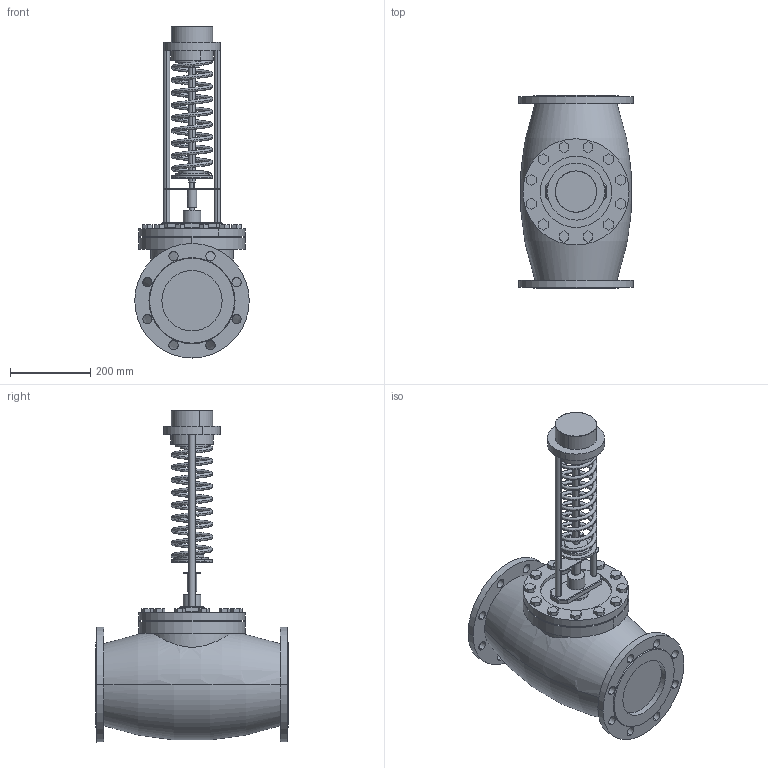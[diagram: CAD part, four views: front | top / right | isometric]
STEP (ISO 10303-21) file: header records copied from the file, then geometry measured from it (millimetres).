
FILE_DESCRIPTION (( 'STEP AP214' ), '1' );
FILE_NAME ('RDT-S, RDT-B DN-150.STEP', '2025-12-12T08:29:07', ( '' ), ( '' ), 'SwSTEP 2.0', 'SolidWorks 2023', '' );
FILE_SCHEMA (( 'AUTOMOTIVE_DESIGN' ));
Length unit declared in the file: millimetre
Products named in the file (5): RDT-S, RDT-B DN-150.stp; ______ ___ 125-150 __ _____1.stp; Деталь76^RDT-S, RDT-B DN-150; RDT DN-150(______)_1.stp; RDT-S, RDT-B DN-150
Assembly tree (4 placements, depth 3):
  RDT-S, RDT-B DN-150
    RDT-S, RDT-B DN-150.stp
      ______ ___ 125-150 __ _____1.stp
      RDT DN-150(______)_1.stp
    Деталь76^RDT-S, RDT-B DN-150
Bounding box: 285 x 480 x 826.03 mm (x, y, z)
Volume: 28424708.9 mm3; surface area: 1029678.3 mm2
Topology: 4 solids, 4 shells, 308 faces, 754 edges, 495 vertices
Faces by surface type: plane 161, cylinder 129, cone 14, bspline 2, torus 2
Entity records: 13118 total; most frequent: CARTESIAN_POINT 5312, DIRECTION 1663, ORIENTED_EDGE 1508, EDGE_CURVE 754, AXIS2_PLACEMENT_3D 605, VERTEX_POINT 495, VECTOR 453, LINE 453
